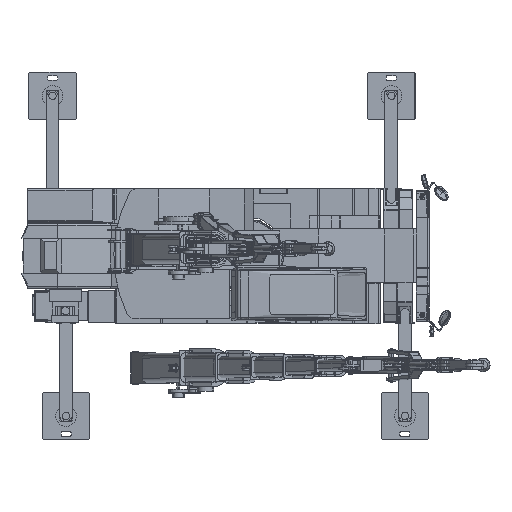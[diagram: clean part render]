
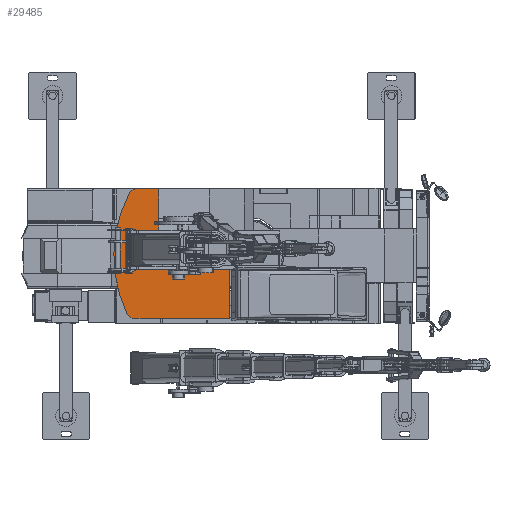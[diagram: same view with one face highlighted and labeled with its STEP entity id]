
A CAD part, top view. The second image highlights one B-rep face of the part: STEP entity #29485.
In plain terms, the highlighted planar face has unit normal (0, 0, 1).
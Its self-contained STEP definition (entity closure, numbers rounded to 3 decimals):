
#28517=AXIS2_PLACEMENT_3D('Circle Axis2P3D',#28515,#28516,$) ;
#29377=AXIS2_PLACEMENT_3D('Circle Axis2P3D',#29375,#29376,$) ;
#29435=AXIS2_PLACEMENT_3D('Circle Axis2P3D',#29433,#29434,$) ;
#29465=AXIS2_PLACEMENT_3D('Plane Axis2P3D',#29462,#29463,#29464) ;
#21350=CARTESIAN_POINT('Vertex',(-1857.31,1130.,946.)) ;
#21353=CARTESIAN_POINT('Line Origine',(-1673.655,1130.,946.)) ;
#21357=CARTESIAN_POINT('Vertex',(-1490.,1130.,946.)) ;
#28512=CARTESIAN_POINT('Vertex',(-2028.291,-973.929,946.)) ;
#28515=CARTESIAN_POINT('Axis2P3D Location',(0.,0.,946.)) ;
#28519=CARTESIAN_POINT('Vertex',(-1989.975,1050.,946.)) ;
#28552=CARTESIAN_POINT('Vertex',(-290.,-229.5,946.)) ;
#28555=CARTESIAN_POINT('Line Origine',(-290.,-644.25,946.)) ;
#28559=CARTESIAN_POINT('Vertex',(-290.,-1059.,946.)) ;
#28583=CARTESIAN_POINT('Vertex',(-1953.323,-229.5,946.)) ;
#28588=CARTESIAN_POINT('Line Origine',(-1121.661,-229.5,946.)) ;
#28632=CARTESIAN_POINT('Vertex',(-1953.323,429.5,946.)) ;
#28681=CARTESIAN_POINT('Vertex',(-1490.,429.5,946.)) ;
#28684=CARTESIAN_POINT('Line Origine',(-1721.661,429.5,946.)) ;
#29076=CARTESIAN_POINT('Vertex',(-1490.,629.5,946.)) ;
#29375=CARTESIAN_POINT('Axis2P3D Location',(-1857.31,980.,946.)) ;
#29392=CARTESIAN_POINT('Line Origine',(-1490.,879.75,946.)) ;
#29409=CARTESIAN_POINT('Line Origine',(-1490.,529.5,946.)) ;
#29430=CARTESIAN_POINT('Vertex',(-1893.071,-1059.,946.)) ;
#29433=CARTESIAN_POINT('Axis2P3D Location',(-1893.071,-909.,946.)) ;
#29450=CARTESIAN_POINT('Line Origine',(-1953.323,100.,946.)) ;
#29462=CARTESIAN_POINT('Axis2P3D Location',(0.,0.,946.)) ;
#29467=CARTESIAN_POINT('Line Origine',(-1091.536,-1059.,946.)) ;
#21354=DIRECTION('Vector Direction',(-1.,0.,0.)) ;
#28516=DIRECTION('Axis2P3D Direction',(0.,0.,1.)) ;
#28556=DIRECTION('Vector Direction',(0.,1.,0.)) ;
#28589=DIRECTION('Vector Direction',(-1.,0.,0.)) ;
#28685=DIRECTION('Vector Direction',(1.,0.,0.)) ;
#29376=DIRECTION('Axis2P3D Direction',(0.,0.,-1.)) ;
#29393=DIRECTION('Vector Direction',(0.,-1.,0.)) ;
#29410=DIRECTION('Vector Direction',(0.,1.,0.)) ;
#29434=DIRECTION('Axis2P3D Direction',(-0.,0.,-1.)) ;
#29451=DIRECTION('Vector Direction',(0.,-1.,0.)) ;
#29463=DIRECTION('Axis2P3D Direction',(0.,0.,1.)) ;
#29464=DIRECTION('Axis2P3D XDirection',(1.,0.,0.)) ;
#29468=DIRECTION('Vector Direction',(1.,0.,0.)) ;
#21355=VECTOR('Line Direction',#21354,1.) ;
#28557=VECTOR('Line Direction',#28556,1.) ;
#28590=VECTOR('Line Direction',#28589,1.) ;
#28686=VECTOR('Line Direction',#28685,1.) ;
#29394=VECTOR('Line Direction',#29393,1.) ;
#29411=VECTOR('Line Direction',#29410,1.) ;
#29452=VECTOR('Line Direction',#29451,1.) ;
#29469=VECTOR('Line Direction',#29468,1.) ;
#29473=ORIENTED_EDGE('',*,*,#29454,.F.) ;
#29474=ORIENTED_EDGE('',*,*,#28688,.T.) ;
#29475=ORIENTED_EDGE('',*,*,#29413,.F.) ;
#29476=ORIENTED_EDGE('',*,*,#29396,.F.) ;
#29477=ORIENTED_EDGE('',*,*,#21359,.T.) ;
#29478=ORIENTED_EDGE('',*,*,#29379,.F.) ;
#29479=ORIENTED_EDGE('',*,*,#28521,.T.) ;
#29480=ORIENTED_EDGE('',*,*,#29437,.F.) ;
#29481=ORIENTED_EDGE('',*,*,#29471,.T.) ;
#29482=ORIENTED_EDGE('',*,*,#28561,.T.) ;
#29483=ORIENTED_EDGE('',*,*,#28592,.T.) ;
#29485=ADVANCED_FACE('\X2\FF8AFF9FFF70FF82\X0\ \X2\FF8EFF9EFF83FF9EFF68FF70\X0\',(#29484),#29466,.T.) ;
#28518=CIRCLE('generated circle',#28517,2250.) ;
#29378=CIRCLE('generated circle',#29377,150.) ;
#29436=CIRCLE('generated circle',#29435,150.) ;
#21359=EDGE_CURVE('',#21358,#21351,#21356,.T.) ;
#28521=EDGE_CURVE('',#28520,#28513,#28518,.T.) ;
#28561=EDGE_CURVE('',#28560,#28553,#28558,.T.) ;
#28592=EDGE_CURVE('',#28553,#28584,#28591,.T.) ;
#28688=EDGE_CURVE('',#28633,#28682,#28687,.T.) ;
#29379=EDGE_CURVE('',#28520,#21351,#29378,.T.) ;
#29396=EDGE_CURVE('',#21358,#29077,#29395,.T.) ;
#29413=EDGE_CURVE('',#29077,#28682,#29412,.F.) ;
#29437=EDGE_CURVE('',#29431,#28513,#29436,.T.) ;
#29454=EDGE_CURVE('',#28633,#28584,#29453,.T.) ;
#29471=EDGE_CURVE('',#29431,#28560,#29470,.T.) ;
#29472=EDGE_LOOP('',(#29473,#29474,#29475,#29476,#29477,#29478,#29479,#29480,#29481,#29482,#29483)) ;
#29484=FACE_OUTER_BOUND('',#29472,.T.) ;
#21356=LINE('Line',#21353,#21355) ;
#28558=LINE('Line',#28555,#28557) ;
#28591=LINE('Line',#28588,#28590) ;
#28687=LINE('Line',#28684,#28686) ;
#29395=LINE('Line',#29392,#29394) ;
#29412=LINE('Line',#29409,#29411) ;
#29453=LINE('Line',#29450,#29452) ;
#29470=LINE('Line',#29467,#29469) ;
#29466=PLANE('',#29465) ;
#21351=VERTEX_POINT('',#21350) ;
#21358=VERTEX_POINT('',#21357) ;
#28513=VERTEX_POINT('',#28512) ;
#28520=VERTEX_POINT('',#28519) ;
#28553=VERTEX_POINT('',#28552) ;
#28560=VERTEX_POINT('',#28559) ;
#28584=VERTEX_POINT('',#28583) ;
#28633=VERTEX_POINT('',#28632) ;
#28682=VERTEX_POINT('',#28681) ;
#29077=VERTEX_POINT('',#29076) ;
#29431=VERTEX_POINT('',#29430) ;
